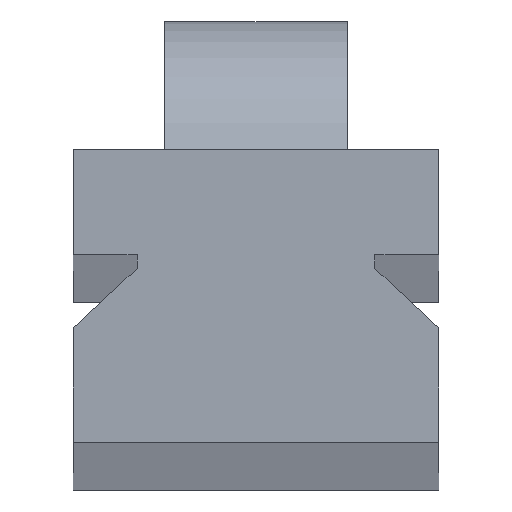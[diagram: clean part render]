
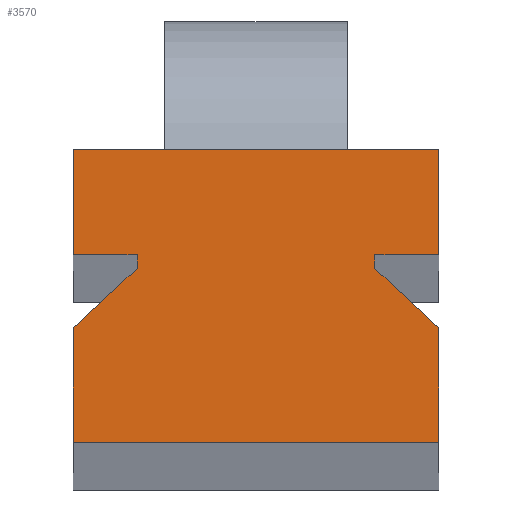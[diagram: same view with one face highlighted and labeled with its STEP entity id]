
A CAD part, top view. The second image highlights one B-rep face of the part: STEP entity #3570.
In plain terms, the highlighted planar face has unit normal (0, 0, 1).
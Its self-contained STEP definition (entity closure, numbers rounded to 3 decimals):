
#37 = CARTESIAN_POINT ( 'NONE',  ( -13., 19., 50. ) ) ;
#79 = CARTESIAN_POINT ( 'NONE',  ( -20., 20.5, 50. ) ) ;
#252 = EDGE_LOOP ( 'NONE', ( #1809, #1726, #885, #3764, #3439, #4156, #2988, #5051, #3319, #1065, #2671, #1443 ) ) ;
#325 = VERTEX_POINT ( 'NONE', #640 ) ;
#386 = VECTOR ( 'NONE', #531, 1000. ) ;
#440 = CARTESIAN_POINT ( 'NONE',  ( -13., 20.5, 50. ) ) ;
#510 = DIRECTION ( 'NONE',  ( 0., 0., -1. ) ) ;
#531 = DIRECTION ( 'NONE',  ( 0., 1., 0. ) ) ;
#565 = LINE ( 'NONE', #4510, #2546 ) ;
#624 = VERTEX_POINT ( 'NONE', #4034 ) ;
#640 = CARTESIAN_POINT ( 'NONE',  ( 20., 0., 50. ) ) ;
#727 = VECTOR ( 'NONE', #4583, 1000. ) ;
#757 = EDGE_CURVE ( 'NONE', #2400, #967, #839, .T. ) ;
#780 = CARTESIAN_POINT ( 'NONE',  ( -20., 20.5, 50. ) ) ;
#798 = VECTOR ( 'NONE', #4417, 1000. ) ;
#806 = VECTOR ( 'NONE', #3141, 1000. ) ;
#839 = LINE ( 'NONE', #440, #3270 ) ;
#885 = ORIENTED_EDGE ( 'NONE', *, *, #3861, .T. ) ;
#967 = VERTEX_POINT ( 'NONE', #37 ) ;
#1065 = ORIENTED_EDGE ( 'NONE', *, *, #2748, .T. ) ;
#1335 = LINE ( 'NONE', #3635, #386 ) ;
#1365 = VERTEX_POINT ( 'NONE', #4307 ) ;
#1443 = ORIENTED_EDGE ( 'NONE', *, *, #4675, .T. ) ;
#1472 = VECTOR ( 'NONE', #4883, 1000. ) ;
#1513 = EDGE_CURVE ( 'NONE', #4397, #3402, #4324, .T. ) ;
#1553 = LINE ( 'NONE', #3505, #2710 ) ;
#1573 = VERTEX_POINT ( 'NONE', #5099 ) ;
#1580 = CARTESIAN_POINT ( 'NONE',  ( -20., 12.5, 50. ) ) ;
#1645 = LINE ( 'NONE', #79, #1965 ) ;
#1670 = DIRECTION ( 'NONE',  ( -1., 0., 0. ) ) ;
#1677 = CARTESIAN_POINT ( 'NONE',  ( 20., 0., 50. ) ) ;
#1704 = FACE_OUTER_BOUND ( 'NONE', #252, .T. ) ;
#1726 = ORIENTED_EDGE ( 'NONE', *, *, #1917, .T. ) ;
#1809 = ORIENTED_EDGE ( 'NONE', *, *, #4155, .T. ) ;
#1828 = CARTESIAN_POINT ( 'NONE',  ( 20., 20.5, 50. ) ) ;
#1917 = EDGE_CURVE ( 'NONE', #4447, #325, #2519, .T. ) ;
#1947 = CARTESIAN_POINT ( 'NONE',  ( 13., 19., 50. ) ) ;
#1965 = VECTOR ( 'NONE', #3257, 1000. ) ;
#2032 = DIRECTION ( 'NONE',  ( 0., -1., 0. ) ) ;
#2080 = LINE ( 'NONE', #3383, #1472 ) ;
#2132 = VECTOR ( 'NONE', #3729, 1000. ) ;
#2288 = VECTOR ( 'NONE', #4302, 1000. ) ;
#2337 = EDGE_CURVE ( 'NONE', #3402, #1573, #4896, .T. ) ;
#2340 = DIRECTION ( 'NONE',  ( 0., 1., 0. ) ) ;
#2357 = VERTEX_POINT ( 'NONE', #2536 ) ;
#2400 = VERTEX_POINT ( 'NONE', #3671 ) ;
#2519 = LINE ( 'NONE', #1677, #798 ) ;
#2536 = CARTESIAN_POINT ( 'NONE',  ( -20., 12.5, 50. ) ) ;
#2546 = VECTOR ( 'NONE', #1670, 1000. ) ;
#2569 = CARTESIAN_POINT ( 'NONE',  ( -20., 0., 50. ) ) ;
#2671 = ORIENTED_EDGE ( 'NONE', *, *, #757, .T. ) ;
#2710 = VECTOR ( 'NONE', #2340, 1000. ) ;
#2720 = CARTESIAN_POINT ( 'NONE',  ( 20., 12.5, 50. ) ) ;
#2748 = EDGE_CURVE ( 'NONE', #4697, #2400, #1645, .T. ) ;
#2845 = CARTESIAN_POINT ( 'NONE',  ( 20., 32., 50. ) ) ;
#2873 = CARTESIAN_POINT ( 'NONE',  ( 20., 12.5, 50. ) ) ;
#2907 = CARTESIAN_POINT ( 'NONE',  ( 0., 0., 50. ) ) ;
#2988 = ORIENTED_EDGE ( 'NONE', *, *, #3970, .T. ) ;
#3124 = AXIS2_PLACEMENT_3D ( 'NONE', #2907, #510, #3735 ) ;
#3141 = DIRECTION ( 'NONE',  ( 0., -1., 0. ) ) ;
#3257 = DIRECTION ( 'NONE',  ( 1., 0., 0. ) ) ;
#3270 = VECTOR ( 'NONE', #2032, 1000. ) ;
#3319 = ORIENTED_EDGE ( 'NONE', *, *, #4821, .T. ) ;
#3338 = CARTESIAN_POINT ( 'NONE',  ( 13., 20.5, 50. ) ) ;
#3383 = CARTESIAN_POINT ( 'NONE',  ( -20., 32., 50. ) ) ;
#3402 = VERTEX_POINT ( 'NONE', #1947 ) ;
#3439 = ORIENTED_EDGE ( 'NONE', *, *, #2337, .T. ) ;
#3505 = CARTESIAN_POINT ( 'NONE',  ( 20., 0., 50. ) ) ;
#3538 = LINE ( 'NONE', #1580, #4132 ) ;
#3570 = ADVANCED_FACE ( 'NONE', ( #1704 ), #4077, .F. ) ;
#3635 = CARTESIAN_POINT ( 'NONE',  ( 20., 32., 50. ) ) ;
#3650 = CARTESIAN_POINT ( 'NONE',  ( -20., 0., 50. ) ) ;
#3671 = CARTESIAN_POINT ( 'NONE',  ( -13., 20.5, 50. ) ) ;
#3729 = DIRECTION ( 'NONE',  ( 0., 1., 0. ) ) ;
#3735 = DIRECTION ( 'NONE',  ( -1., 0., 0. ) ) ;
#3764 = ORIENTED_EDGE ( 'NONE', *, *, #1513, .T. ) ;
#3861 = EDGE_CURVE ( 'NONE', #325, #4397, #1553, .T. ) ;
#3915 = EDGE_CURVE ( 'NONE', #4421, #1365, #565, .T. ) ;
#3924 = LINE ( 'NONE', #1828, #727 ) ;
#3970 = EDGE_CURVE ( 'NONE', #624, #4421, #1335, .T. ) ;
#4026 = DIRECTION ( 'NONE',  ( -0.733, -0.68, 0. ) ) ;
#4034 = CARTESIAN_POINT ( 'NONE',  ( 20., 20.5, 50. ) ) ;
#4077 = PLANE ( 'NONE',  #3124 ) ;
#4132 = VECTOR ( 'NONE', #4026, 1000. ) ;
#4155 = EDGE_CURVE ( 'NONE', #2357, #4447, #5060, .T. ) ;
#4156 = ORIENTED_EDGE ( 'NONE', *, *, #4534, .T. ) ;
#4302 = DIRECTION ( 'NONE',  ( -0.733, 0.68, 0. ) ) ;
#4307 = CARTESIAN_POINT ( 'NONE',  ( -20., 32., 50. ) ) ;
#4324 = LINE ( 'NONE', #2720, #2288 ) ;
#4397 = VERTEX_POINT ( 'NONE', #2873 ) ;
#4417 = DIRECTION ( 'NONE',  ( 1., 0., 0. ) ) ;
#4421 = VERTEX_POINT ( 'NONE', #2845 ) ;
#4447 = VERTEX_POINT ( 'NONE', #3650 ) ;
#4510 = CARTESIAN_POINT ( 'NONE',  ( 20., 32., 50. ) ) ;
#4534 = EDGE_CURVE ( 'NONE', #1573, #624, #3924, .T. ) ;
#4583 = DIRECTION ( 'NONE',  ( 1., 0., 0. ) ) ;
#4675 = EDGE_CURVE ( 'NONE', #967, #2357, #3538, .T. ) ;
#4697 = VERTEX_POINT ( 'NONE', #780 ) ;
#4821 = EDGE_CURVE ( 'NONE', #1365, #4697, #2080, .T. ) ;
#4883 = DIRECTION ( 'NONE',  ( 0., -1., 0. ) ) ;
#4896 = LINE ( 'NONE', #3338, #2132 ) ;
#5051 = ORIENTED_EDGE ( 'NONE', *, *, #3915, .T. ) ;
#5060 = LINE ( 'NONE', #2569, #806 ) ;
#5099 = CARTESIAN_POINT ( 'NONE',  ( 13., 20.5, 50. ) ) ;
